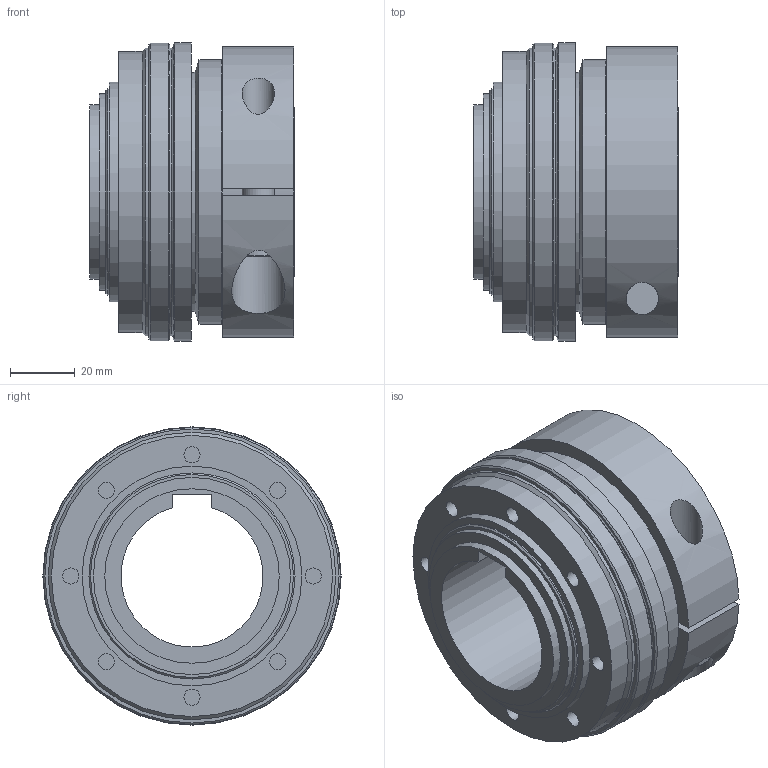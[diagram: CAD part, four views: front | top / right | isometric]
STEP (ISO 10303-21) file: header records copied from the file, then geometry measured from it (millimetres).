
FILE_DESCRIPTION(/* description */ ('STEP AP214'),/* implementation_level */ '2;1');
FILE_NAME(/* name */ 'C:\Diequa Files\DieQua Coupling\TA\STP\TA.150.WD.#.#.stp',/* time_stamp */ '2019-04-26T13:12:31-05:00',/* author */ ('DiequaCAD'),/* organization */ (''),/* preprocessor_version */ 'ST-DEVELOPER v18',/* originating_system */ 'Autodesk Inventor 2020',/* authorisation */ ' ');
FILE_SCHEMA (('AUTOMOTIVE_DESIGN { 1 0 10303 214 3 1 1 }'));
Length unit declared in the file: millimetre
Products named in the file (1): SLN_150_63_W_44_PFN_150_100_200_12
Bounding box: 63.3 x 92.3 x 92.3 mm (x, y, z)
Volume: 254392.2 mm3; surface area: 48586 mm2
Topology: 1 solids, 1 shells, 76 faces, 200 edges, 148 vertices
Faces by surface type: plane 39, cylinder 27, cone 7, torus 3
Full cylindrical faces by diameter (mm): 5 x8, 10 x2, 10.5 x1, 16 x1, 16.5 x1, 54 x1, 61 x1, 63.8 x1, 68 x1, 74 x1, 82 x1, 87 x1, 89 x2, 92 x1, 92.3 x1
Entity records: 2609 total; most frequent: CARTESIAN_POINT 513, DIRECTION 469, ORIENTED_EDGE 400, EDGE_CURVE 200, AXIS2_PLACEMENT_3D 200, VERTEX_POINT 148, CIRCLE 123, EDGE_LOOP 102
